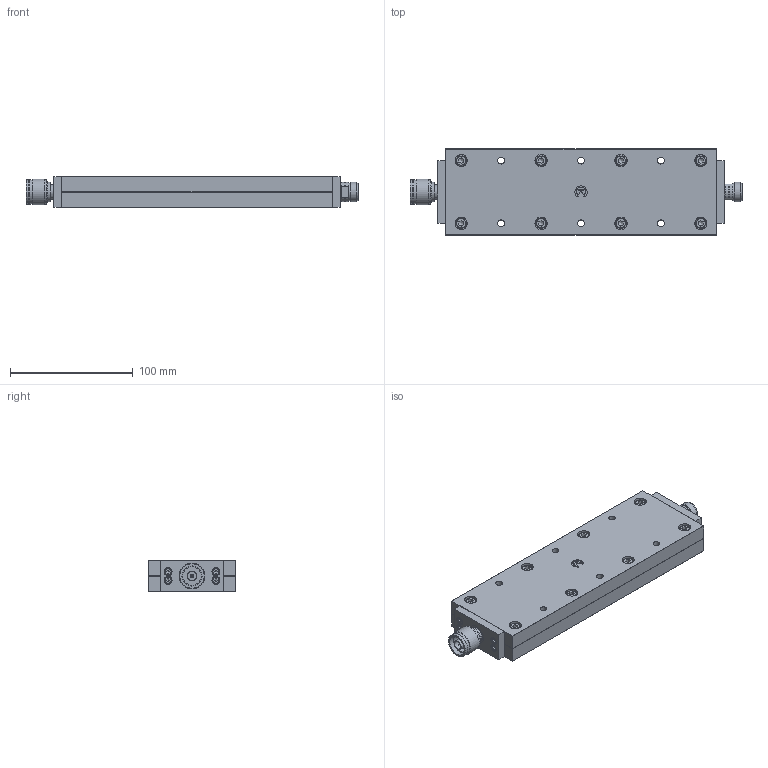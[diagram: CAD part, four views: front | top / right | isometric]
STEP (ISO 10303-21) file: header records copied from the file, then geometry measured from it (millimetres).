
FILE_DESCRIPTION(('STEP AP203'), '1');
FILE_NAME('ÏÐ1-25-500-3-NFM', '', ('UNSPECIFIED'), ('UNSPECIFIED'), 'C3D Converter', 'C3D Toolkit', '');
FILE_SCHEMA(('CONFIG_CONTROL_DESIGN'));
Length unit declared in the file: millimetre
Products named in the file (10): -01; #678
Assembly tree (22 placements, depth 2):
  (unnamed)
    (unnamed)
    (unnamed)
    (unnamed)
    (unnamed)  x4
    (unnamed)  x8
    -01
    #678  x4
    (unnamed)
    -01
Bounding box: 270.15 x 70 x 25 mm (x, y, z)
Volume: 401520.4 mm3; surface area: 101213.8 mm2
Topology: 22 solids, 22 shells, 471 faces, 1029 edges, 660 vertices
Faces by surface type: plane 262, cylinder 132, cone 42, torus 35
Full cylindrical faces by diameter (mm): 1.65 x1, 1.66 x1, 2.459 x4, 2.5 x4, 3 x16, 3.04 x2, 4.2 x8, 5 x8, 5.5 x28, 6.5 x8, 7 x2, 8.04 x1, 8.06 x1, 8.5 x8, 9 x1, 10 x8, 11.6 x2, 12.7 x1, 14 x2, 14.94 x1, 15.75 x1, 15.87 x1, 16 x4, 16.5 x1, 17.46 x1, 17.8 x1, 19.8 x3, 20.85 x1
Entity records: 9062 total; most frequent: CARTESIAN_POINT 2084, DIRECTION 1272, ORIENTED_EDGE 942, AXIS2_PLACEMENT_3D 527, EDGE_LOOP 514, EDGE_CURVE 471, VERTEX_POINT 375, FACE_BOUND 300
